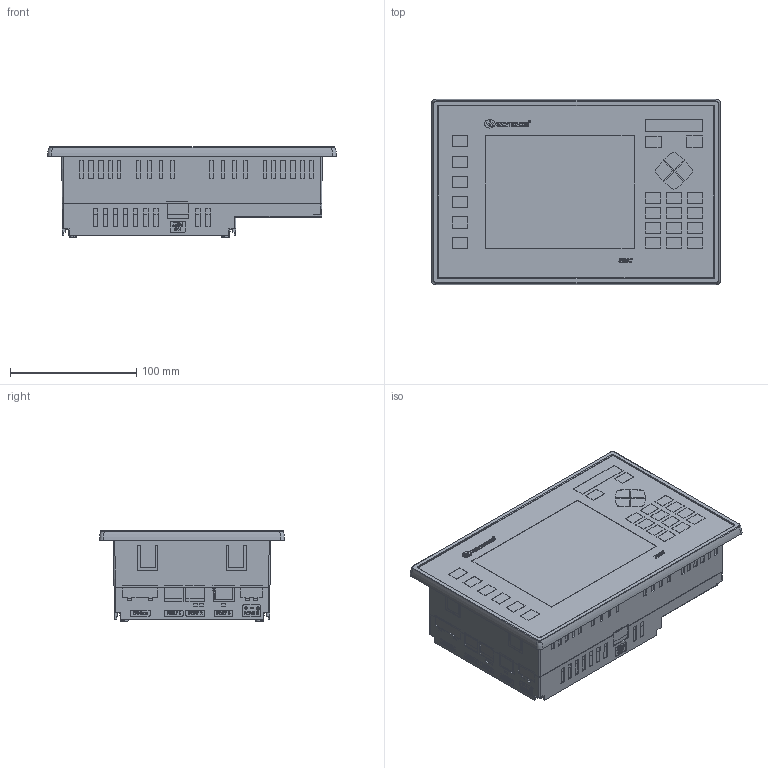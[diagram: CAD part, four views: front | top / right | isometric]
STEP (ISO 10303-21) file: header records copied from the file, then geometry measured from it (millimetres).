
FILE_DESCRIPTION (( 'STEP AP203' ), '1' );
FILE_NAME ('V560-56-B20B.STEP', '2011-12-01T15:42:13', ( 'unitronics' ), ( 'unitronics' ), 'SwSTEP 2.0', 'SolidWorks 2011', '' );
FILE_SCHEMA (( 'CONFIG_CONTROL_DESIGN' ));
Products named in the file (1): V560-56-B20B
Bounding box: 228.35 x 146.46 x 71.8 mm (x, y, z)
Volume: 1592372.7 mm3; surface area: 139054.1 mm2
Topology: 1 solids, 8 shells, 2941 faces, 7909 edges, 5207 vertices
Faces by surface type: plane 2192, cylinder 327, bspline 299, cone 68, torus 40, sphere 15
Entity records: 101070 total; most frequent: CARTESIAN_POINT 30122, ORIENTED_EDGE 15814, DIRECTION 12689, EDGE_CURVE 7907, VECTOR 6365, LINE 6365, VERTEX_POINT 5207, EDGE_LOOP 3184
